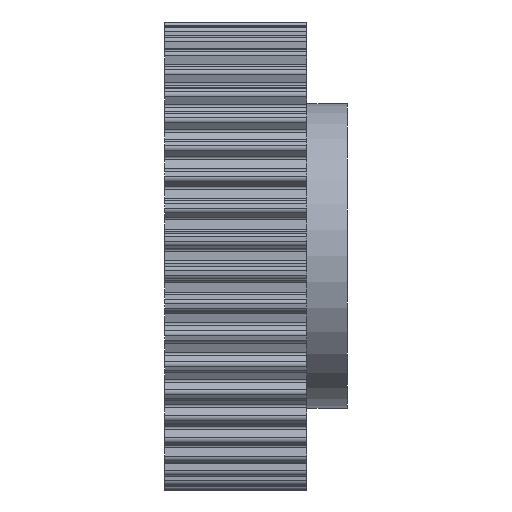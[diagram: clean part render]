
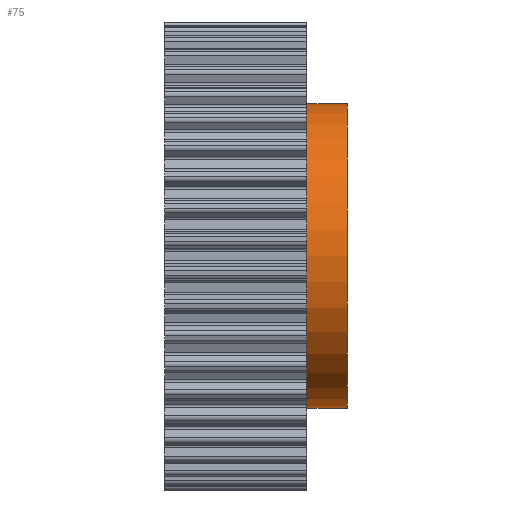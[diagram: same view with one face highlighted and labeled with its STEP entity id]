
A CAD part, front view. The second image highlights one B-rep face of the part: STEP entity #75.
In plain terms, the highlighted cylindrical face has radius 22.5 mm (diameter 45 mm), a full revolution.
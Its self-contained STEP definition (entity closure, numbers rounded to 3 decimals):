
#75 = ADVANCED_FACE( '', ( #433, #434 ), #435, .T. );
#433 = FACE_OUTER_BOUND( '', #1152, .T. );
#434 = FACE_OUTER_BOUND( '', #1153, .T. );
#435 = CYLINDRICAL_SURFACE( '', #1154, 22.5 );
#1152 = EDGE_LOOP( '', ( #1871 ) );
#1153 = EDGE_LOOP( '', ( #1872 ) );
#1154 = AXIS2_PLACEMENT_3D( '', #1873, #1874, #1875 );
#1871 = ORIENTED_EDGE( '', *, *, #5062, .F. );
#1872 = ORIENTED_EDGE( '', *, *, #5063, .T. );
#1873 = CARTESIAN_POINT( '', ( 27., 0., 0. ) );
#1874 = DIRECTION( '', ( -1., 0., 0. ) );
#1875 = DIRECTION( '', ( 0., 0., -1. ) );
#5062 = EDGE_CURVE( '', #6122, #6122, #6123, .T. );
#5063 = EDGE_CURVE( '', #6124, #6124, #6125, .T. );
#6122 = VERTEX_POINT( '', #7890 );
#6123 = CIRCLE( '', #7891, 22.5 );
#6124 = VERTEX_POINT( '', #7892 );
#6125 = CIRCLE( '', #7893, 22.5 );
#7890 = CARTESIAN_POINT( '', ( 27., 0., -22.5 ) );
#7891 = AXIS2_PLACEMENT_3D( '', #10274, #10275, #10276 );
#7892 = CARTESIAN_POINT( '', ( 21., 0., -22.5 ) );
#7893 = AXIS2_PLACEMENT_3D( '', #10277, #10278, #10279 );
#10274 = CARTESIAN_POINT( '', ( 27., 0., 0. ) );
#10275 = DIRECTION( '', ( 1., 0., 0. ) );
#10276 = DIRECTION( '', ( 0., 0., -1. ) );
#10277 = CARTESIAN_POINT( '', ( 21., 0., 0. ) );
#10278 = DIRECTION( '', ( 1., 0., 0. ) );
#10279 = DIRECTION( '', ( 0., 0., -1. ) );
